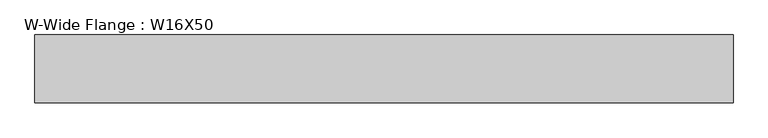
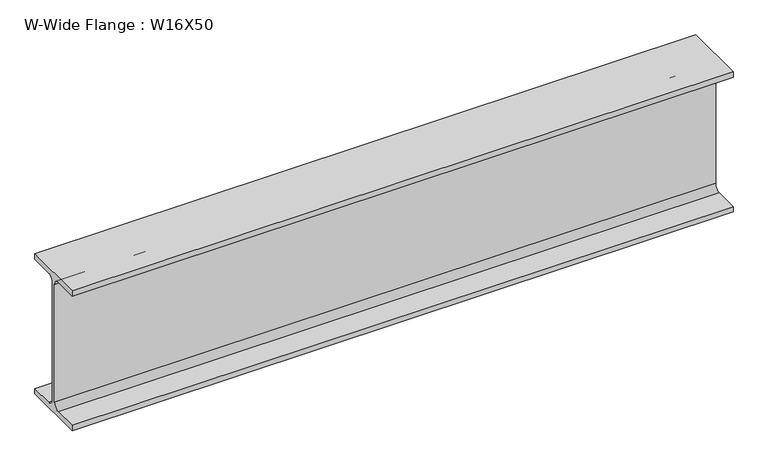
"""IFC4 building model written with IfcOpenShell, lengths in millimetres: beam geometry, W-Wide Flange : W16X50."""

from ifc_helpers import new_model, si_unit, point, frame, frame_2d, origin, place, context, project, spatial, polyline, circle_curve, trimmed, segment, composite_curve, outline, extrude, source, transform, mapped, element, save


def w_wide_flange_w16x50_f430b839(model_context):
    return source(origin(), model_context, "Body", "SweptSolid", [
        extrude(outline(composite_curve([segment(polyline([(-89.789, -191.008), (-22.1615, -191.008)]), True, "CONTINUOUS"), segment(trimmed(circle_curve(frame_2d((-22.1615, -173.6725)), 17.3355), [point((-22.1615, -191.008))], [point((-4.826, -173.6725))], True, "CARTESIAN"), True, "CONTINUOUS"), segment(polyline([(-4.826, -173.6725), (-4.826, 173.6725)]), True, "CONTINUOUS"), segment(trimmed(circle_curve(frame_2d((-22.1615, 173.6725)), 17.3355), [point((-4.826, 173.6725))], [point((-22.1615, 191.008))], True, "CARTESIAN"), True, "CONTINUOUS"), segment(polyline([(-22.1615, 191.008), (-89.789, 191.008), (-89.789, 207.01), (89.789, 207.01), (89.789, 191.008), (22.1615, 191.008)]), True, "CONTINUOUS"), segment(trimmed(circle_curve(frame_2d((22.1615, 173.6725)), 17.3355), [point((22.1615, 191.008))], [point((4.826, 173.6725))], True, "CARTESIAN"), True, "CONTINUOUS"), segment(polyline([(4.826, 173.6725), (4.826, -173.6725)]), True, "CONTINUOUS"), segment(trimmed(circle_curve(frame_2d((22.1615, -173.6725)), 17.3355), [point((4.826, -173.6725))], [point((22.1615, -191.008))], True, "CARTESIAN"), True, "CONTINUOUS"), segment(polyline([(22.1615, -191.008), (89.789, -191.008), (89.789, -207.01), (-89.789, -207.01), (-89.789, -191.008)]), True, "CONTINUOUS")], self_intersect=False)), frame((-912.045346, 0.0, 0.0), z_axis=(1.0, 0.0, 0.0), x_axis=(0.0, 1.0, 0.0)), (0.0, 0.0, 1.0), 1846.950692),
    ])


if __name__ == "__main__":
    model = new_model("IFC4")
    model_context = context("Model", 3, world=origin())
    ifc_project = project(units=[si_unit("LENGTHUNIT", "METRE", prefix="MILLI")], contexts=[model_context])
    site = spatial("IfcSite", under=ifc_project)
    building = spatial("IfcBuilding", under=site)
    placement = place(None, origin())
    w_wide_flange_w16x50_shape = w_wide_flange_w16x50_f430b839(model_context)
    element("IfcBeam", 1, ObjectType="W-Wide Flange : W16X50", at=placement, inside=building, context=model_context, shape_type="MappedRepresentation", body=[
        mapped(w_wide_flange_w16x50_shape, transform((0.0, 0.0, 0.0), x_axis=(1.0, 0.0, 0.0), y_axis=(0.0, 1.0, 0.0), z_axis=(0.0, 0.0, 1.0))),
    ])
    save(model, "model.ifc")
